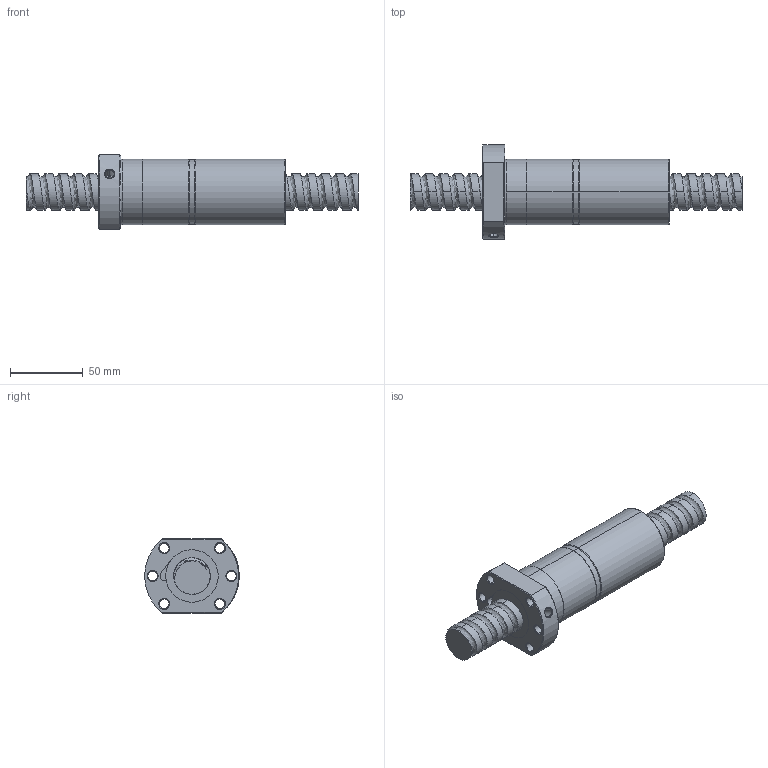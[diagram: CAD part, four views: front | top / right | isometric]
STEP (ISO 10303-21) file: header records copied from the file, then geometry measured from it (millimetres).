
FILE_DESCRIPTION (( 'STEP AP214' ), '1' );
FILE_NAME ('FDDC02510T4-D-C.STEP', '2010-07-07T01:13:45', ( 'XPAUTO' ), ( 'XPAUTO' ), 'SwSTEP 2.0', 'SolidWorks 2007', '' );
FILE_SCHEMA (( 'AUTOMOTIVE_DESIGN' ));
Length unit declared in the file: millimetre
Products named in the file (3): FDDC02510T4-D-C; FDDC02510T4-D-C.sldasm-Part-2_預設; FDDC02510T4-D-C.sldasm-Part-1_預設
Assembly tree (2 placements, depth 2):
  FDDC02510T4-D-C
    FDDC02510T4-D-C.sldasm-Part-2_預設
    FDDC02510T4-D-C.sldasm-Part-1_預設
Bounding box: 228 x 64.79 x 51 mm (x, y, z)
Volume: 255320.2 mm3; surface area: 57096.7 mm2
Topology: 2 solids, 2 shells, 148 faces, 374 edges, 235 vertices
Faces by surface type: cylinder 89, cone 24, plane 22, torus 8, bspline 5
Entity records: 27375 total; most frequent: CARTESIAN_POINT 23870, ORIENTED_EDGE 748, DIRECTION 668, EDGE_CURVE 374, AXIS2_PLACEMENT_3D 269, VERTEX_POINT 235, EDGE_LOOP 169, ADVANCED_FACE 148
